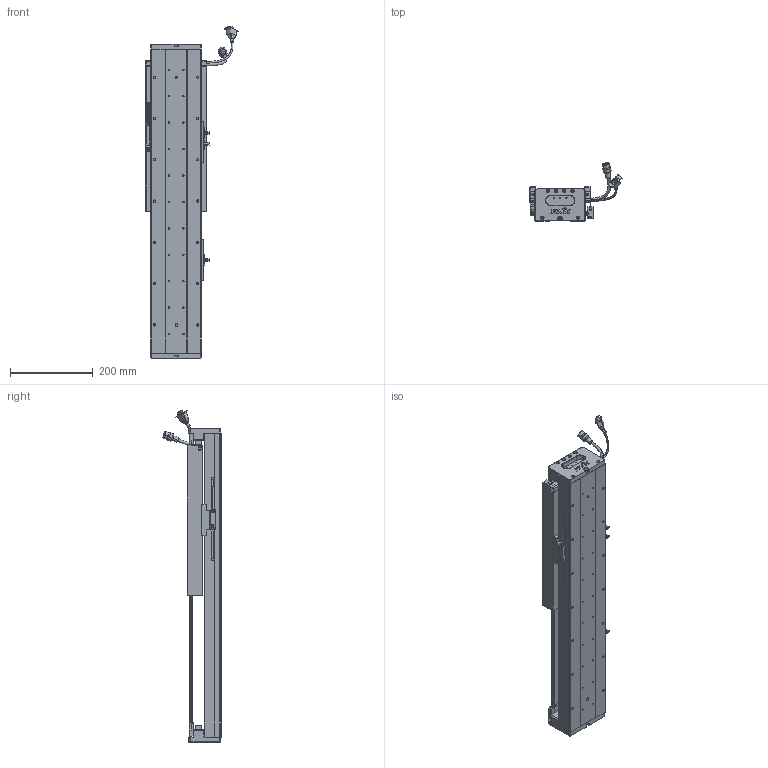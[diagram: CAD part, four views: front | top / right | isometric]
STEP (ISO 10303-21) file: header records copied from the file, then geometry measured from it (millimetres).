
FILE_DESCRIPTION (( 'STEP AP203' ), '1' );
FILE_NAME ('Z5-RY120D-1-L500-B-K.SLDASM_0300.step', '2021-05-17T06:21:04', ( '盈信电脑' ), ( '东莞市道滘镇水果街19号' ), 'SwSTEP 2.0', 'SolidWorks 2016', '' );
FILE_SCHEMA (( 'CONFIG_CONTROL_DESIGN' ));
Length unit declared in the file: millimetre
Products named in the file (37): COVER; 080黍杅芛假蚾釱21遴; PBU_SHEET; 120-Z-臏賑輸盄裔(21遴); Z5-RY120铝滑块（21款）; HARNESS-Part-2; SCALE; SCREW-M1.7; SCALE-Part-1; SCREW-M1.6-2; Z5-RY120D-1-L500-B-K.SLDASM_0300; HARNESS; SCALE-Part-2; 榋妏寠巭燃_暯_M2_2; PSLH080_PSLF2; SEAL; RY100FB-遵嫖萇覜茼え; Z-120詩湍傷裔啣; SCREW-M1.7-1; SCREW-M1.6-3; SEAL-Part-1; 140雄赽晤鎢ん堤盄; LABEL; SCREW-M1.6; SCREW-M1.6-1; 覜茼ん672; Z-RY120D詩湍奻揤裔; Z-RY120D詩湍狟揤裔; Z5-RY120-L500詩湍100mm遵_0300; 672嫖萇羲壽假蚾釱; HARNESS-Part-1; LABEL-Part-1; HOLDER0; Z5-RY120-500-倰第菁釱_0300; SHIELDPLATE; COVER-Part-1; 140蚥薯蝶輸
Assembly tree (43 placements, depth 4):
  Z5-RY120D-1-L500-B-K.SLDASM_0300
    Z5-RY120-500-倰第菁釱_0300
    覜茼ん672  x3
    672嫖萇羲壽假蚾釱  x2
    Z5-RY120铝滑块（21款）
    PSLH080_PSLF2
      SCALE
        SCALE-Part-1
        SCALE-Part-2
      HARNESS
        HARNESS-Part-1
        HARNESS-Part-2
      LABEL
        LABEL-Part-1
      COVER
        COVER-Part-1
      SEAL
        SEAL-Part-1
      榋妏寠巭燃_暯_M2_2
      SHIELDPLATE
      SCREW-M1.7
      SCREW-M1.7-1
      PBU_SHEET
      SCREW-M1.6
      SCREW-M1.6-1
      SCREW-M1.6-2
      SCREW-M1.6-3
      HOLDER0
    080黍杅芛假蚾釱21遴
    120-Z-臏賑輸盄裔(21遴)
    140雄赽晤鎢ん堤盄
    140蚥薯蝶輸  x2
    RY100FB-遵嫖萇覜茼え
    Z-120詩湍傷裔啣  x2
    Z-RY120D詩湍奻揤裔  x2
    Z-RY120D詩湍狟揤裔  x2
    Z5-RY120-L500詩湍100mm遵_0300
Bounding box: 222.88 x 140.94 x 804 mm (x, y, z)
Volume: 2855765 mm3; surface area: 873405.4 mm2
Topology: 38 solids, 38 shells, 2697 faces, 7159 edges, 4526 vertices
Faces by surface type: cylinder 1211, plane 1106, cone 258, torus 69, bspline 53
Entity records: 78598 total; most frequent: CARTESIAN_POINT 19867, DIRECTION 11455, ORIENTED_EDGE 11326, EDGE_CURVE 5663, AXIS2_PLACEMENT_3D 4204, VERTEX_POINT 3646, LINE 3047, VECTOR 3047
